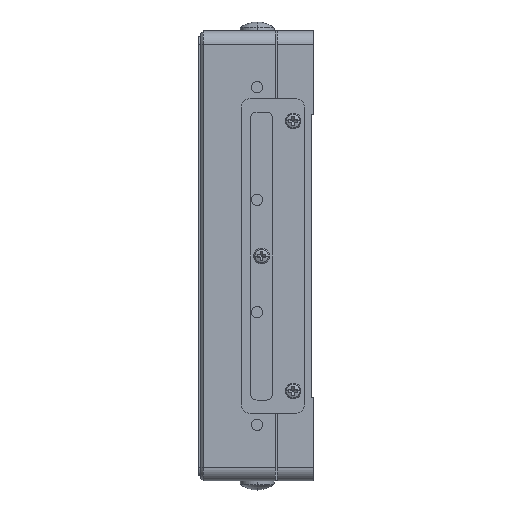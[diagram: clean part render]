
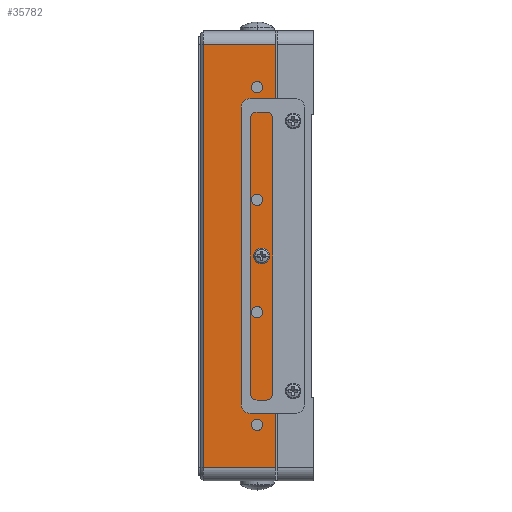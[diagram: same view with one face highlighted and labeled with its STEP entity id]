
A CAD part, left-side view. The second image highlights one B-rep face of the part: STEP entity #35782.
In plain terms, the highlighted planar face has unit normal (-1, 0, 0).
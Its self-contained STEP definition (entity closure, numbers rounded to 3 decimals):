
#728 = EDGE_CURVE ( 'NONE', #50069, #47486, #32673, .T. ) ;
#1340 = ORIENTED_EDGE ( 'NONE', *, *, #65454, .F. ) ;
#1652 = AXIS2_PLACEMENT_3D ( 'NONE', #46325, #62558, #7933 ) ;
#1977 = CIRCLE ( 'NONE', #49239, 0.8 ) ;
#3306 = EDGE_LOOP ( 'NONE', ( #1340, #50532, #38250, #32406 ) ) ;
#3595 = CIRCLE ( 'NONE', #14848, 1.25 ) ;
#4895 = VERTEX_POINT ( 'NONE', #16897 ) ;
#5266 = DIRECTION ( 'NONE',  ( 0., 1., 0. ) ) ;
#6041 = CARTESIAN_POINT ( 'NONE',  ( -49.85, 3.25, 12.5 ) ) ;
#6327 = CIRCLE ( 'NONE', #33314, 1.25 ) ;
#7933 = DIRECTION ( 'NONE',  ( 0., 1., 0. ) ) ;
#8211 = FACE_BOUND ( 'NONE', #17120, .T. ) ;
#8251 = CIRCLE ( 'NONE', #47614, 1.25 ) ;
#8899 = CARTESIAN_POINT ( 'NONE',  ( -49.85, 17.5, -50. ) ) ;
#9059 = AXIS2_PLACEMENT_3D ( 'NONE', #43977, #59176, #5266 ) ;
#11216 = DIRECTION ( 'NONE',  ( 0., 1., 0. ) ) ;
#11862 = ORIENTED_EDGE ( 'NONE', *, *, #32175, .F. ) ;
#12763 = EDGE_CURVE ( 'NONE', #56420, #4895, #25527, .T. ) ;
#13467 = PLANE ( 'NONE',  #43421 ) ;
#14005 = ORIENTED_EDGE ( 'NONE', *, *, #728, .F. ) ;
#14848 = AXIS2_PLACEMENT_3D ( 'NONE', #50110, #44103, #43746 ) ;
#14869 = DIRECTION ( 'NONE',  ( 0., 0., 1. ) ) ;
#16897 = CARTESIAN_POINT ( 'NONE',  ( -49.85, 16.5, -47. ) ) ;
#17023 = CARTESIAN_POINT ( 'NONE',  ( -49.85, 3.5, 0. ) ) ;
#17120 = EDGE_LOOP ( 'NONE', ( #11862, #55600 ) ) ;
#17774 = CARTESIAN_POINT ( 'NONE',  ( -49.85, 4.5, 37.5 ) ) ;
#18581 = ORIENTED_EDGE ( 'NONE', *, *, #55490, .F. ) ;
#18857 = DIRECTION ( 'NONE',  ( 0., 0., -1. ) ) ;
#19469 = DIRECTION ( 'NONE',  ( -1., 0., 0. ) ) ;
#19611 = VERTEX_POINT ( 'NONE', #50020 ) ;
#20149 = FACE_BOUND ( 'NONE', #38542, .T. ) ;
#20166 = CARTESIAN_POINT ( 'NONE',  ( -49.85, 5.75, 12.5 ) ) ;
#21183 = DIRECTION ( 'NONE',  ( -1., 0., 0. ) ) ;
#21898 = CIRCLE ( 'NONE', #1652, 1.25 ) ;
#22296 = EDGE_LOOP ( 'NONE', ( #32300, #29909 ) ) ;
#22523 = CARTESIAN_POINT ( 'NONE',  ( -49.85, 4.5, -37.5 ) ) ;
#23064 = CARTESIAN_POINT ( 'NONE',  ( -49.85, 4.3, 0. ) ) ;
#23659 = DIRECTION ( 'NONE',  ( 0., -1., 0. ) ) ;
#24401 = FACE_BOUND ( 'NONE', #54495, .T. ) ;
#25527 = LINE ( 'NONE', #61845, #45277 ) ;
#25746 = CARTESIAN_POINT ( 'NONE',  ( -49.85, 0.5, -47. ) ) ;
#26141 = CARTESIAN_POINT ( 'NONE',  ( -49.85, 0.5, 47. ) ) ;
#26840 = EDGE_CURVE ( 'NONE', #40936, #60417, #35549, .T. ) ;
#27015 = CARTESIAN_POINT ( 'NONE',  ( -49.85, 5.75, 37.5 ) ) ;
#27132 = CARTESIAN_POINT ( 'NONE',  ( -49.85, 5.75, -12.5 ) ) ;
#27581 = EDGE_CURVE ( 'NONE', #35981, #42876, #49482, .T. ) ;
#27945 = EDGE_CURVE ( 'NONE', #56420, #60417, #30004, .T. ) ;
#28455 = CIRCLE ( 'NONE', #29560, 1.25 ) ;
#28708 = DIRECTION ( 'NONE',  ( -1., 0., 0. ) ) ;
#29560 = AXIS2_PLACEMENT_3D ( 'NONE', #22523, #49671, #44024 ) ;
#29909 = ORIENTED_EDGE ( 'NONE', *, *, #56181, .F. ) ;
#30004 = LINE ( 'NONE', #56452, #39414 ) ;
#30585 = CARTESIAN_POINT ( 'NONE',  ( -49.85, 3.25, -37.5 ) ) ;
#31105 = EDGE_CURVE ( 'NONE', #37696, #67083, #8251, .T. ) ;
#31341 = VERTEX_POINT ( 'NONE', #23064 ) ;
#31470 = AXIS2_PLACEMENT_3D ( 'NONE', #55514, #28708, #55858 ) ;
#32175 = EDGE_CURVE ( 'NONE', #43633, #19611, #28455, .T. ) ;
#32300 = ORIENTED_EDGE ( 'NONE', *, *, #31105, .F. ) ;
#32406 = ORIENTED_EDGE ( 'NONE', *, *, #12763, .T. ) ;
#32673 = CIRCLE ( 'NONE', #9059, 1.25 ) ;
#33314 = AXIS2_PLACEMENT_3D ( 'NONE', #52940, #21183, #38078 ) ;
#33630 = ORIENTED_EDGE ( 'NONE', *, *, #46670, .F. ) ;
#34118 = EDGE_CURVE ( 'NONE', #42876, #35981, #21898, .T. ) ;
#34916 = DIRECTION ( 'NONE',  ( -1., 0., 0. ) ) ;
#34963 = FACE_BOUND ( 'NONE', #22296, .T. ) ;
#35549 = LINE ( 'NONE', #61977, #43973 ) ;
#35551 = DIRECTION ( 'NONE',  ( 0., -1., 0. ) ) ;
#35782 = ADVANCED_FACE ( 'NONE', ( #8211, #24401, #20149, #34963, #67757, #57196 ), #13467, .T. ) ;
#35884 = EDGE_CURVE ( 'NONE', #19611, #43633, #6327, .T. ) ;
#35981 = VERTEX_POINT ( 'NONE', #6041 ) ;
#37696 = VERTEX_POINT ( 'NONE', #43640 ) ;
#38078 = DIRECTION ( 'NONE',  ( 0., 1., 0. ) ) ;
#38250 = ORIENTED_EDGE ( 'NONE', *, *, #27945, .F. ) ;
#38542 = EDGE_LOOP ( 'NONE', ( #46851, #51458 ) ) ;
#39260 = DIRECTION ( 'NONE',  ( -1., 0., 0. ) ) ;
#39414 = VECTOR ( 'NONE', #23659, 1000. ) ;
#39783 = DIRECTION ( 'NONE',  ( -1., 0., 0. ) ) ;
#40124 = CARTESIAN_POINT ( 'NONE',  ( -49.85, 4.5, 37.5 ) ) ;
#40315 = VECTOR ( 'NONE', #11216, 1000. ) ;
#40814 = DIRECTION ( 'NONE',  ( 0., 0., 1. ) ) ;
#40902 = CARTESIAN_POINT ( 'NONE',  ( -49.85, 3.5, 0. ) ) ;
#40936 = VERTEX_POINT ( 'NONE', #25746 ) ;
#42876 = VERTEX_POINT ( 'NONE', #20166 ) ;
#43421 = AXIS2_PLACEMENT_3D ( 'NONE', #8899, #19469, #14869 ) ;
#43633 = VERTEX_POINT ( 'NONE', #30585 ) ;
#43640 = CARTESIAN_POINT ( 'NONE',  ( -49.85, 3.25, 37.5 ) ) ;
#43746 = DIRECTION ( 'NONE',  ( 0., -1., 0. ) ) ;
#43973 = VECTOR ( 'NONE', #40814, 1000. ) ;
#43977 = CARTESIAN_POINT ( 'NONE',  ( -49.85, 4.5, -12.5 ) ) ;
#44024 = DIRECTION ( 'NONE',  ( 0., -1., 0. ) ) ;
#44103 = DIRECTION ( 'NONE',  ( -1., 0., 0. ) ) ;
#44549 = EDGE_LOOP ( 'NONE', ( #33630, #18581 ) ) ;
#45277 = VECTOR ( 'NONE', #18857, 1000. ) ;
#45853 = DIRECTION ( 'NONE',  ( 0., 1., 0. ) ) ;
#46325 = CARTESIAN_POINT ( 'NONE',  ( -49.85, 4.5, 12.5 ) ) ;
#46670 = EDGE_CURVE ( 'NONE', #56051, #31341, #1977, .T. ) ;
#46851 = ORIENTED_EDGE ( 'NONE', *, *, #27581, .F. ) ;
#47486 = VERTEX_POINT ( 'NONE', #56000 ) ;
#47497 = AXIS2_PLACEMENT_3D ( 'NONE', #40902, #34916, #45853 ) ;
#47614 = AXIS2_PLACEMENT_3D ( 'NONE', #40124, #39783, #35551 ) ;
#48067 = DIRECTION ( 'NONE',  ( 0., -1., 0. ) ) ;
#48231 = CARTESIAN_POINT ( 'NONE',  ( -49.85, 0.5, -47. ) ) ;
#48646 = AXIS2_PLACEMENT_3D ( 'NONE', #17774, #39260, #54817 ) ;
#49239 = AXIS2_PLACEMENT_3D ( 'NONE', #17023, #60036, #48067 ) ;
#49482 = CIRCLE ( 'NONE', #31470, 1.25 ) ;
#49671 = DIRECTION ( 'NONE',  ( -1., 0., 0. ) ) ;
#50020 = CARTESIAN_POINT ( 'NONE',  ( -49.85, 5.75, -37.5 ) ) ;
#50069 = VERTEX_POINT ( 'NONE', #27132 ) ;
#50110 = CARTESIAN_POINT ( 'NONE',  ( -49.85, 4.5, -12.5 ) ) ;
#50532 = ORIENTED_EDGE ( 'NONE', *, *, #26840, .T. ) ;
#51458 = ORIENTED_EDGE ( 'NONE', *, *, #34118, .F. ) ;
#52940 = CARTESIAN_POINT ( 'NONE',  ( -49.85, 4.5, -37.5 ) ) ;
#53154 = CIRCLE ( 'NONE', #47497, 0.8 ) ;
#53211 = LINE ( 'NONE', #48231, #40315 ) ;
#54495 = EDGE_LOOP ( 'NONE', ( #65594, #14005 ) ) ;
#54817 = DIRECTION ( 'NONE',  ( 0., 1., 0. ) ) ;
#55401 = EDGE_CURVE ( 'NONE', #47486, #50069, #3595, .T. ) ;
#55490 = EDGE_CURVE ( 'NONE', #31341, #56051, #53154, .T. ) ;
#55514 = CARTESIAN_POINT ( 'NONE',  ( -49.85, 4.5, 12.5 ) ) ;
#55600 = ORIENTED_EDGE ( 'NONE', *, *, #35884, .F. ) ;
#55858 = DIRECTION ( 'NONE',  ( 0., -1., 0. ) ) ;
#56000 = CARTESIAN_POINT ( 'NONE',  ( -49.85, 3.25, -12.5 ) ) ;
#56051 = VERTEX_POINT ( 'NONE', #65358 ) ;
#56181 = EDGE_CURVE ( 'NONE', #67083, #37696, #64406, .T. ) ;
#56420 = VERTEX_POINT ( 'NONE', #59632 ) ;
#56452 = CARTESIAN_POINT ( 'NONE',  ( -49.85, 16.5, 47. ) ) ;
#57196 = FACE_OUTER_BOUND ( 'NONE', #3306, .T. ) ;
#59176 = DIRECTION ( 'NONE',  ( -1., 0., 0. ) ) ;
#59632 = CARTESIAN_POINT ( 'NONE',  ( -49.85, 16.5, 47. ) ) ;
#60036 = DIRECTION ( 'NONE',  ( -1., 0., 0. ) ) ;
#60417 = VERTEX_POINT ( 'NONE', #26141 ) ;
#61845 = CARTESIAN_POINT ( 'NONE',  ( -49.85, 16.5, 47. ) ) ;
#61977 = CARTESIAN_POINT ( 'NONE',  ( -49.85, 0.5, -47. ) ) ;
#62558 = DIRECTION ( 'NONE',  ( -1., 0., 0. ) ) ;
#64406 = CIRCLE ( 'NONE', #48646, 1.25 ) ;
#65358 = CARTESIAN_POINT ( 'NONE',  ( -49.85, 2.7, 0. ) ) ;
#65454 = EDGE_CURVE ( 'NONE', #40936, #4895, #53211, .T. ) ;
#65594 = ORIENTED_EDGE ( 'NONE', *, *, #55401, .F. ) ;
#67083 = VERTEX_POINT ( 'NONE', #27015 ) ;
#67757 = FACE_BOUND ( 'NONE', #44549, .T. ) ;
